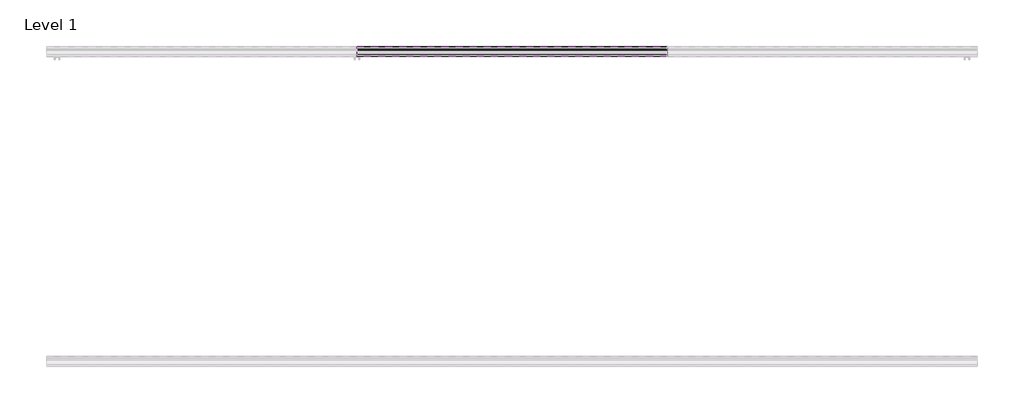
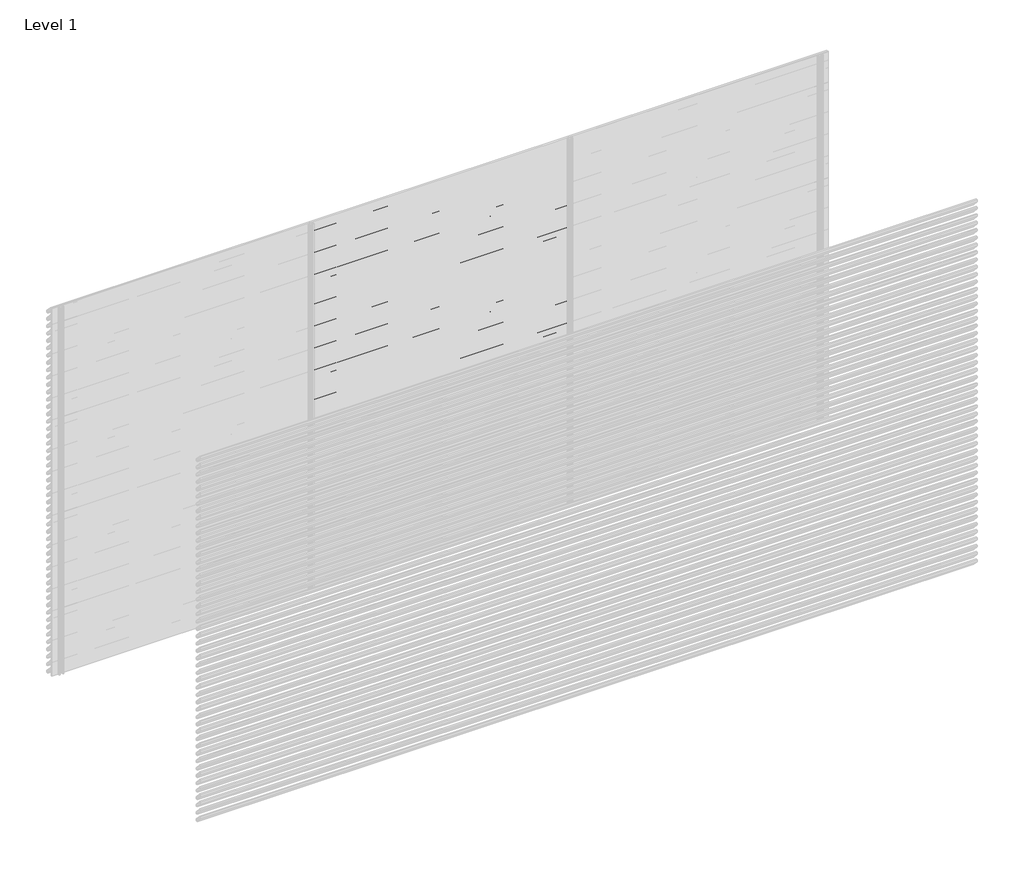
# One storey, part 140 of 153: 33 proxies.
"""IFC4 building model written with IfcOpenShell, lengths in millimetres."""

from ifc_helpers import new_model, si_unit, point, frame, frame_2d, origin, place, context, project, spatial, polyline, circle_curve, trimmed, segment, composite_curve, outline, extrude, element, save

model = new_model("IFC4")

# Units and contexts
model_context = context("Model", 3, world=origin())
ifc_project = project(units=[si_unit("LENGTHUNIT", "METRE", prefix="MILLI")], contexts=[model_context])

# Site, building, storey
site = spatial("IfcSite", under=ifc_project)
building = spatial("IfcBuilding", under=site)
storey = spatial("IfcBuildingStorey", under=building, Name="Level 1", Elevation=0.0)

# Proxies
placement = place(None, origin())
element("IfcBuildingElementProxy", 1, Name="Wall Sweeps", at=placement, inside=storey, context=model_context, shape_type="SweptSolid", body=[
    extrude(outline(composite_curve([segment(polyline([(66485.0540136, 2940.0), (66499.874191, 2938.7034025), (66549.0540136, 2885.0102749), (66549.0540136, 2873.6108187)]), True, "CONTINUOUS"), segment(trimmed(circle_curve(frame_2d((66545.7883652, 2873.897153)), 3.2781774), [point((66549.0540136, 2873.6108187))], [point((66546.4639442, 2870.6893438))], False, "CARTESIAN"), True, "CONTINUOUS"), segment(polyline([(66546.4639442, 2870.6893438), (66534.1895723, 2871.6282758), (66485.0540136, 2925.2730773), (66485.0540136, 2940.0)]), True, "CONTINUOUS")], self_intersect=False), holes=[composite_curve([segment(polyline([(66499.1621773, 2937.2599659), (66486.5540136, 2938.3630372), (66486.5540136, 2925.856213), (66534.8952036, 2873.0786805), (66546.3312542, 2872.2038762)]), True, "CONTINUOUS"), segment(trimmed(circle_curve(frame_2d((66545.7883652, 2873.897153)), 1.7781774), [point((66546.3312542, 2872.2038762))], [point((66547.5540136, 2873.6864389))], True, "CARTESIAN"), True, "CONTINUOUS"), segment(polyline([(66547.5540136, 2873.6864389), (66547.5540136, 2884.4271392), (66499.1621773, 2937.2599659)]), True, "CONTINUOUS")], self_intersect=False)]), frame((46966.6208098, 0.0, 0.0), z_axis=(1.0, 0.0, 0.0), x_axis=(0.0, 1.0, 0.0)), (0.0, 0.0, 1.0), 1999.9999998),
])
element("IfcBuildingElementProxy", 2, Name="Wall Sweeps", at=placement, inside=storey, context=model_context, shape_type="SweptSolid", body=[
    extrude(outline(composite_curve([segment(polyline([(66485.0540136, 2880.0), (66499.874191, 2878.7034025), (66549.0540136, 2825.0102749), (66549.0540136, 2813.6108187)]), True, "CONTINUOUS"), segment(trimmed(circle_curve(frame_2d((66545.7883652, 2813.897153)), 3.2781774), [point((66549.0540136, 2813.6108187))], [point((66546.4639442, 2810.6893438))], False, "CARTESIAN"), True, "CONTINUOUS"), segment(polyline([(66546.4639442, 2810.6893438), (66534.1895723, 2811.6282758), (66485.0540136, 2865.2730773), (66485.0540136, 2880.0)]), True, "CONTINUOUS")], self_intersect=False), holes=[composite_curve([segment(polyline([(66499.1621773, 2877.2599659), (66486.5540136, 2878.3630372), (66486.5540136, 2865.856213), (66534.8952036, 2813.0786805), (66546.3312542, 2812.2038762)]), True, "CONTINUOUS"), segment(trimmed(circle_curve(frame_2d((66545.7883652, 2813.897153)), 1.7781774), [point((66546.3312542, 2812.2038762))], [point((66547.5540136, 2813.6864389))], True, "CARTESIAN"), True, "CONTINUOUS"), segment(polyline([(66547.5540136, 2813.6864389), (66547.5540136, 2824.4271392), (66499.1621773, 2877.2599659)]), True, "CONTINUOUS")], self_intersect=False)]), frame((46966.6208098, 0.0, 0.0), z_axis=(1.0, 0.0, 0.0), x_axis=(0.0, 1.0, 0.0)), (0.0, 0.0, 1.0), 1999.9999998),
])
element("IfcBuildingElementProxy", 3, Name="Wall Sweeps", at=placement, inside=storey, context=model_context, shape_type="SweptSolid", body=[
    extrude(outline(composite_curve([segment(polyline([(66485.0540136, 2820.0), (66499.874191, 2818.7034025), (66549.0540136, 2765.0102749), (66549.0540136, 2753.6108187)]), True, "CONTINUOUS"), segment(trimmed(circle_curve(frame_2d((66545.7883652, 2753.897153)), 3.2781774), [point((66549.0540136, 2753.6108187))], [point((66546.4639442, 2750.6893438))], False, "CARTESIAN"), True, "CONTINUOUS"), segment(polyline([(66546.4639442, 2750.6893438), (66534.1895723, 2751.6282758), (66485.0540136, 2805.2730773), (66485.0540136, 2820.0)]), True, "CONTINUOUS")], self_intersect=False), holes=[composite_curve([segment(polyline([(66499.1621773, 2817.2599659), (66486.5540136, 2818.3630372), (66486.5540136, 2805.856213), (66534.8952036, 2753.0786805), (66546.3312542, 2752.2038762)]), True, "CONTINUOUS"), segment(trimmed(circle_curve(frame_2d((66545.7883652, 2753.897153)), 1.7781774), [point((66546.3312542, 2752.2038762))], [point((66547.5540136, 2753.6864389))], True, "CARTESIAN"), True, "CONTINUOUS"), segment(polyline([(66547.5540136, 2753.6864389), (66547.5540136, 2764.4271392), (66499.1621773, 2817.2599659)]), True, "CONTINUOUS")], self_intersect=False)]), frame((46966.6208098, 0.0, 0.0), z_axis=(1.0, 0.0, 0.0), x_axis=(0.0, 1.0, 0.0)), (0.0, 0.0, 1.0), 1999.9999998),
])
element("IfcBuildingElementProxy", 4, Name="Wall Sweeps", at=placement, inside=storey, context=model_context, shape_type="SweptSolid", body=[
    extrude(outline(composite_curve([segment(polyline([(66485.0540136, 2760.0), (66499.874191, 2758.7034025), (66549.0540136, 2705.0102749), (66549.0540136, 2693.6108187)]), True, "CONTINUOUS"), segment(trimmed(circle_curve(frame_2d((66545.7883652, 2693.897153)), 3.2781774), [point((66549.0540136, 2693.6108187))], [point((66546.4639442, 2690.6893438))], False, "CARTESIAN"), True, "CONTINUOUS"), segment(polyline([(66546.4639442, 2690.6893438), (66534.1895723, 2691.6282758), (66485.0540136, 2745.2730773), (66485.0540136, 2760.0)]), True, "CONTINUOUS")], self_intersect=False), holes=[composite_curve([segment(polyline([(66499.1621773, 2757.2599659), (66486.5540136, 2758.3630372), (66486.5540136, 2745.856213), (66534.8952036, 2693.0786805), (66546.3312542, 2692.2038762)]), True, "CONTINUOUS"), segment(trimmed(circle_curve(frame_2d((66545.7883652, 2693.897153)), 1.7781774), [point((66546.3312542, 2692.2038762))], [point((66547.5540136, 2693.6864389))], True, "CARTESIAN"), True, "CONTINUOUS"), segment(polyline([(66547.5540136, 2693.6864389), (66547.5540136, 2704.4271392), (66499.1621773, 2757.2599659)]), True, "CONTINUOUS")], self_intersect=False)]), frame((46966.6208098, 0.0, 0.0), z_axis=(1.0, 0.0, 0.0), x_axis=(0.0, 1.0, 0.0)), (0.0, 0.0, 1.0), 1999.9999998),
])
element("IfcBuildingElementProxy", 5, Name="Wall Sweeps", at=placement, inside=storey, context=model_context, shape_type="SweptSolid", body=[
    extrude(outline(composite_curve([segment(polyline([(66485.0540136, 2700.0), (66499.874191, 2698.7034025), (66549.0540136, 2645.0102749), (66549.0540136, 2633.6108187)]), True, "CONTINUOUS"), segment(trimmed(circle_curve(frame_2d((66545.7883652, 2633.897153)), 3.2781774), [point((66549.0540136, 2633.6108187))], [point((66546.4639442, 2630.6893438))], False, "CARTESIAN"), True, "CONTINUOUS"), segment(polyline([(66546.4639442, 2630.6893438), (66534.1895723, 2631.6282758), (66485.0540136, 2685.2730773), (66485.0540136, 2700.0)]), True, "CONTINUOUS")], self_intersect=False), holes=[composite_curve([segment(polyline([(66499.1621773, 2697.2599659), (66486.5540136, 2698.3630372), (66486.5540136, 2685.856213), (66534.8952036, 2633.0786805), (66546.3312542, 2632.2038762)]), True, "CONTINUOUS"), segment(trimmed(circle_curve(frame_2d((66545.7883652, 2633.897153)), 1.7781774), [point((66546.3312542, 2632.2038762))], [point((66547.5540136, 2633.6864389))], True, "CARTESIAN"), True, "CONTINUOUS"), segment(polyline([(66547.5540136, 2633.6864389), (66547.5540136, 2644.4271392), (66499.1621773, 2697.2599659)]), True, "CONTINUOUS")], self_intersect=False)]), frame((46966.6208098, 0.0, 0.0), z_axis=(1.0, 0.0, 0.0), x_axis=(0.0, 1.0, 0.0)), (0.0, 0.0, 1.0), 1999.9999998),
])
element("IfcBuildingElementProxy", 6, Name="Wall Sweeps", at=placement, inside=storey, context=model_context, shape_type="SweptSolid", body=[
    extrude(outline(composite_curve([segment(polyline([(66485.0540136, 2640.0), (66499.874191, 2638.7034025), (66549.0540136, 2585.0102749), (66549.0540136, 2573.6108187)]), True, "CONTINUOUS"), segment(trimmed(circle_curve(frame_2d((66545.7883652, 2573.897153)), 3.2781774), [point((66549.0540136, 2573.6108187))], [point((66546.4639442, 2570.6893438))], False, "CARTESIAN"), True, "CONTINUOUS"), segment(polyline([(66546.4639442, 2570.6893438), (66534.1895723, 2571.6282758), (66485.0540136, 2625.2730773), (66485.0540136, 2640.0)]), True, "CONTINUOUS")], self_intersect=False), holes=[composite_curve([segment(polyline([(66499.1621773, 2637.2599659), (66486.5540136, 2638.3630372), (66486.5540136, 2625.856213), (66534.8952036, 2573.0786805), (66546.3312542, 2572.2038762)]), True, "CONTINUOUS"), segment(trimmed(circle_curve(frame_2d((66545.7883652, 2573.897153)), 1.7781774), [point((66546.3312542, 2572.2038762))], [point((66547.5540136, 2573.6864389))], True, "CARTESIAN"), True, "CONTINUOUS"), segment(polyline([(66547.5540136, 2573.6864389), (66547.5540136, 2584.4271392), (66499.1621773, 2637.2599659)]), True, "CONTINUOUS")], self_intersect=False)]), frame((46966.6208098, 0.0, 0.0), z_axis=(1.0, 0.0, 0.0), x_axis=(0.0, 1.0, 0.0)), (0.0, 0.0, 1.0), 1999.9999998),
])
element("IfcBuildingElementProxy", 7, Name="Wall Sweeps", at=placement, inside=storey, context=model_context, shape_type="SweptSolid", body=[
    extrude(outline(composite_curve([segment(polyline([(66485.0540136, 2580.0), (66499.874191, 2578.7034025), (66549.0540136, 2525.0102749), (66549.0540136, 2513.6108187)]), True, "CONTINUOUS"), segment(trimmed(circle_curve(frame_2d((66545.7883652, 2513.897153)), 3.2781774), [point((66549.0540136, 2513.6108187))], [point((66546.4639442, 2510.6893438))], False, "CARTESIAN"), True, "CONTINUOUS"), segment(polyline([(66546.4639442, 2510.6893438), (66534.1895723, 2511.6282758), (66485.0540136, 2565.2730773), (66485.0540136, 2580.0)]), True, "CONTINUOUS")], self_intersect=False), holes=[composite_curve([segment(polyline([(66499.1621773, 2577.2599659), (66486.5540136, 2578.3630372), (66486.5540136, 2565.856213), (66534.8952036, 2513.0786805), (66546.3312542, 2512.2038762)]), True, "CONTINUOUS"), segment(trimmed(circle_curve(frame_2d((66545.7883652, 2513.897153)), 1.7781774), [point((66546.3312542, 2512.2038762))], [point((66547.5540136, 2513.6864389))], True, "CARTESIAN"), True, "CONTINUOUS"), segment(polyline([(66547.5540136, 2513.6864389), (66547.5540136, 2524.4271392), (66499.1621773, 2577.2599659)]), True, "CONTINUOUS")], self_intersect=False)]), frame((46966.6208098, 0.0, 0.0), z_axis=(1.0, 0.0, 0.0), x_axis=(0.0, 1.0, 0.0)), (0.0, 0.0, 1.0), 1999.9999998),
])
element("IfcBuildingElementProxy", 8, Name="Wall Sweeps", at=placement, inside=storey, context=model_context, shape_type="SweptSolid", body=[
    extrude(outline(composite_curve([segment(polyline([(66485.0540136, 2520.0), (66499.874191, 2518.7034025), (66549.0540136, 2465.0102749), (66549.0540136, 2453.6108187)]), True, "CONTINUOUS"), segment(trimmed(circle_curve(frame_2d((66545.7883652, 2453.897153)), 3.2781774), [point((66549.0540136, 2453.6108187))], [point((66546.4639442, 2450.6893438))], False, "CARTESIAN"), True, "CONTINUOUS"), segment(polyline([(66546.4639442, 2450.6893438), (66534.1895723, 2451.6282758), (66485.0540136, 2505.2730773), (66485.0540136, 2520.0)]), True, "CONTINUOUS")], self_intersect=False), holes=[composite_curve([segment(polyline([(66499.1621773, 2517.2599659), (66486.5540136, 2518.3630372), (66486.5540136, 2505.856213), (66534.8952036, 2453.0786805), (66546.3312542, 2452.2038762)]), True, "CONTINUOUS"), segment(trimmed(circle_curve(frame_2d((66545.7883652, 2453.897153)), 1.7781774), [point((66546.3312542, 2452.2038762))], [point((66547.5540136, 2453.6864389))], True, "CARTESIAN"), True, "CONTINUOUS"), segment(polyline([(66547.5540136, 2453.6864389), (66547.5540136, 2464.4271392), (66499.1621773, 2517.2599659)]), True, "CONTINUOUS")], self_intersect=False)]), frame((46966.6208098, 0.0, 0.0), z_axis=(1.0, 0.0, 0.0), x_axis=(0.0, 1.0, 0.0)), (0.0, 0.0, 1.0), 1999.9999998),
])
element("IfcBuildingElementProxy", 9, Name="Wall Sweeps", at=placement, inside=storey, context=model_context, shape_type="SweptSolid", body=[
    extrude(outline(composite_curve([segment(polyline([(66485.0540136, 2460.0), (66499.874191, 2458.7034025), (66549.0540136, 2405.0102749), (66549.0540136, 2393.6108187)]), True, "CONTINUOUS"), segment(trimmed(circle_curve(frame_2d((66545.7883652, 2393.897153)), 3.2781774), [point((66549.0540136, 2393.6108187))], [point((66546.4639442, 2390.6893438))], False, "CARTESIAN"), True, "CONTINUOUS"), segment(polyline([(66546.4639442, 2390.6893438), (66534.1895723, 2391.6282758), (66485.0540136, 2445.2730773), (66485.0540136, 2460.0)]), True, "CONTINUOUS")], self_intersect=False), holes=[composite_curve([segment(polyline([(66499.1621773, 2457.2599659), (66486.5540136, 2458.3630372), (66486.5540136, 2445.856213), (66534.8952036, 2393.0786805), (66546.3312542, 2392.2038762)]), True, "CONTINUOUS"), segment(trimmed(circle_curve(frame_2d((66545.7883652, 2393.897153)), 1.7781774), [point((66546.3312542, 2392.2038762))], [point((66547.5540136, 2393.6864389))], True, "CARTESIAN"), True, "CONTINUOUS"), segment(polyline([(66547.5540136, 2393.6864389), (66547.5540136, 2404.4271392), (66499.1621773, 2457.2599659)]), True, "CONTINUOUS")], self_intersect=False)]), frame((46966.6208098, 0.0, 0.0), z_axis=(1.0, 0.0, 0.0), x_axis=(0.0, 1.0, 0.0)), (0.0, 0.0, 1.0), 1999.9999998),
])
element("IfcBuildingElementProxy", 10, Name="Wall Sweeps", at=placement, inside=storey, context=model_context, shape_type="SweptSolid", body=[
    extrude(outline(composite_curve([segment(polyline([(66485.0540136, 2400.0), (66499.874191, 2398.7034025), (66549.0540136, 2345.0102749), (66549.0540136, 2333.6108187)]), True, "CONTINUOUS"), segment(trimmed(circle_curve(frame_2d((66545.7883652, 2333.897153)), 3.2781774), [point((66549.0540136, 2333.6108187))], [point((66546.4639442, 2330.6893438))], False, "CARTESIAN"), True, "CONTINUOUS"), segment(polyline([(66546.4639442, 2330.6893438), (66534.1895723, 2331.6282758), (66485.0540136, 2385.2730773), (66485.0540136, 2400.0)]), True, "CONTINUOUS")], self_intersect=False), holes=[composite_curve([segment(polyline([(66499.1621773, 2397.2599659), (66486.5540136, 2398.3630372), (66486.5540136, 2385.856213), (66534.8952036, 2333.0786805), (66546.3312542, 2332.2038762)]), True, "CONTINUOUS"), segment(trimmed(circle_curve(frame_2d((66545.7883652, 2333.897153)), 1.7781774), [point((66546.3312542, 2332.2038762))], [point((66547.5540136, 2333.6864389))], True, "CARTESIAN"), True, "CONTINUOUS"), segment(polyline([(66547.5540136, 2333.6864389), (66547.5540136, 2344.4271392), (66499.1621773, 2397.2599659)]), True, "CONTINUOUS")], self_intersect=False)]), frame((46966.6208098, 0.0, 0.0), z_axis=(1.0, 0.0, 0.0), x_axis=(0.0, 1.0, 0.0)), (0.0, 0.0, 1.0), 1999.9999998),
])
element("IfcBuildingElementProxy", 11, Name="Wall Sweeps", at=placement, inside=storey, context=model_context, shape_type="SweptSolid", body=[
    extrude(outline(composite_curve([segment(polyline([(66485.0540136, 2340.0), (66499.874191, 2338.7034025), (66549.0540136, 2285.0102749), (66549.0540136, 2273.6108187)]), True, "CONTINUOUS"), segment(trimmed(circle_curve(frame_2d((66545.7883652, 2273.897153)), 3.2781774), [point((66549.0540136, 2273.6108187))], [point((66546.4639442, 2270.6893438))], False, "CARTESIAN"), True, "CONTINUOUS"), segment(polyline([(66546.4639442, 2270.6893438), (66534.1895723, 2271.6282758), (66485.0540136, 2325.2730773), (66485.0540136, 2340.0)]), True, "CONTINUOUS")], self_intersect=False), holes=[composite_curve([segment(polyline([(66499.1621773, 2337.2599659), (66486.5540136, 2338.3630372), (66486.5540136, 2325.856213), (66534.8952036, 2273.0786805), (66546.3312542, 2272.2038762)]), True, "CONTINUOUS"), segment(trimmed(circle_curve(frame_2d((66545.7883652, 2273.897153)), 1.7781774), [point((66546.3312542, 2272.2038762))], [point((66547.5540136, 2273.6864389))], True, "CARTESIAN"), True, "CONTINUOUS"), segment(polyline([(66547.5540136, 2273.6864389), (66547.5540136, 2284.4271392), (66499.1621773, 2337.2599659)]), True, "CONTINUOUS")], self_intersect=False)]), frame((46966.6208098, 0.0, 0.0), z_axis=(1.0, 0.0, 0.0), x_axis=(0.0, 1.0, 0.0)), (0.0, 0.0, 1.0), 1999.9999998),
])
element("IfcBuildingElementProxy", 12, Name="Wall Sweeps", at=placement, inside=storey, context=model_context, shape_type="SweptSolid", body=[
    extrude(outline(composite_curve([segment(polyline([(66485.0540136, 2280.0), (66499.874191, 2278.7034025), (66549.0540136, 2225.0102749), (66549.0540136, 2213.6108187)]), True, "CONTINUOUS"), segment(trimmed(circle_curve(frame_2d((66545.7883652, 2213.897153)), 3.2781774), [point((66549.0540136, 2213.6108187))], [point((66546.4639442, 2210.6893438))], False, "CARTESIAN"), True, "CONTINUOUS"), segment(polyline([(66546.4639442, 2210.6893438), (66534.1895723, 2211.6282758), (66485.0540136, 2265.2730773), (66485.0540136, 2280.0)]), True, "CONTINUOUS")], self_intersect=False), holes=[composite_curve([segment(polyline([(66499.1621773, 2277.2599659), (66486.5540136, 2278.3630372), (66486.5540136, 2265.856213), (66534.8952036, 2213.0786805), (66546.3312542, 2212.2038762)]), True, "CONTINUOUS"), segment(trimmed(circle_curve(frame_2d((66545.7883652, 2213.897153)), 1.7781774), [point((66546.3312542, 2212.2038762))], [point((66547.5540136, 2213.6864389))], True, "CARTESIAN"), True, "CONTINUOUS"), segment(polyline([(66547.5540136, 2213.6864389), (66547.5540136, 2224.4271392), (66499.1621773, 2277.2599659)]), True, "CONTINUOUS")], self_intersect=False)]), frame((46966.6208098, 0.0, 0.0), z_axis=(1.0, 0.0, 0.0), x_axis=(0.0, 1.0, 0.0)), (0.0, 0.0, 1.0), 1999.9999998),
])
element("IfcBuildingElementProxy", 13, Name="Wall Sweeps", at=placement, inside=storey, context=model_context, shape_type="SweptSolid", body=[
    extrude(outline(composite_curve([segment(polyline([(66485.0540136, 2220.0), (66499.874191, 2218.7034025), (66549.0540136, 2165.0102749), (66549.0540136, 2153.6108187)]), True, "CONTINUOUS"), segment(trimmed(circle_curve(frame_2d((66545.7883652, 2153.897153)), 3.2781774), [point((66549.0540136, 2153.6108187))], [point((66546.4639442, 2150.6893438))], False, "CARTESIAN"), True, "CONTINUOUS"), segment(polyline([(66546.4639442, 2150.6893438), (66534.1895723, 2151.6282758), (66485.0540136, 2205.2730773), (66485.0540136, 2220.0)]), True, "CONTINUOUS")], self_intersect=False), holes=[composite_curve([segment(polyline([(66499.1621773, 2217.2599659), (66486.5540136, 2218.3630372), (66486.5540136, 2205.856213), (66534.8952036, 2153.0786805), (66546.3312542, 2152.2038762)]), True, "CONTINUOUS"), segment(trimmed(circle_curve(frame_2d((66545.7883652, 2153.897153)), 1.7781774), [point((66546.3312542, 2152.2038762))], [point((66547.5540136, 2153.6864389))], True, "CARTESIAN"), True, "CONTINUOUS"), segment(polyline([(66547.5540136, 2153.6864389), (66547.5540136, 2164.4271392), (66499.1621773, 2217.2599659)]), True, "CONTINUOUS")], self_intersect=False)]), frame((46966.6208098, 0.0, 0.0), z_axis=(1.0, 0.0, 0.0), x_axis=(0.0, 1.0, 0.0)), (0.0, 0.0, 1.0), 1999.9999998),
])
element("IfcBuildingElementProxy", 14, Name="Wall Sweeps", at=placement, inside=storey, context=model_context, shape_type="SweptSolid", body=[
    extrude(outline(composite_curve([segment(polyline([(66485.0540136, 2160.0), (66499.874191, 2158.7034025), (66549.0540136, 2105.0102749), (66549.0540136, 2093.6108187)]), True, "CONTINUOUS"), segment(trimmed(circle_curve(frame_2d((66545.7883652, 2093.897153)), 3.2781774), [point((66549.0540136, 2093.6108187))], [point((66546.4639442, 2090.6893438))], False, "CARTESIAN"), True, "CONTINUOUS"), segment(polyline([(66546.4639442, 2090.6893438), (66534.1895723, 2091.6282758), (66485.0540136, 2145.2730773), (66485.0540136, 2160.0)]), True, "CONTINUOUS")], self_intersect=False), holes=[composite_curve([segment(polyline([(66499.1621773, 2157.2599659), (66486.5540136, 2158.3630372), (66486.5540136, 2145.856213), (66534.8952036, 2093.0786805), (66546.3312542, 2092.2038762)]), True, "CONTINUOUS"), segment(trimmed(circle_curve(frame_2d((66545.7883652, 2093.897153)), 1.7781774), [point((66546.3312542, 2092.2038762))], [point((66547.5540136, 2093.6864389))], True, "CARTESIAN"), True, "CONTINUOUS"), segment(polyline([(66547.5540136, 2093.6864389), (66547.5540136, 2104.4271392), (66499.1621773, 2157.2599659)]), True, "CONTINUOUS")], self_intersect=False)]), frame((46966.6208098, 0.0, 0.0), z_axis=(1.0, 0.0, 0.0), x_axis=(0.0, 1.0, 0.0)), (0.0, 0.0, 1.0), 1999.9999998),
])
element("IfcBuildingElementProxy", 15, Name="Wall Sweeps", at=placement, inside=storey, context=model_context, shape_type="SweptSolid", body=[
    extrude(outline(composite_curve([segment(polyline([(66485.0540136, 2100.0), (66499.874191, 2098.7034025), (66549.0540136, 2045.0102749), (66549.0540136, 2033.6108187)]), True, "CONTINUOUS"), segment(trimmed(circle_curve(frame_2d((66545.7883652, 2033.897153)), 3.2781774), [point((66549.0540136, 2033.6108187))], [point((66546.4639442, 2030.6893438))], False, "CARTESIAN"), True, "CONTINUOUS"), segment(polyline([(66546.4639442, 2030.6893438), (66534.1895723, 2031.6282758), (66485.0540136, 2085.2730773), (66485.0540136, 2100.0)]), True, "CONTINUOUS")], self_intersect=False), holes=[composite_curve([segment(polyline([(66499.1621773, 2097.2599659), (66486.5540136, 2098.3630372), (66486.5540136, 2085.856213), (66534.8952036, 2033.0786805), (66546.3312542, 2032.2038762)]), True, "CONTINUOUS"), segment(trimmed(circle_curve(frame_2d((66545.7883652, 2033.897153)), 1.7781774), [point((66546.3312542, 2032.2038762))], [point((66547.5540136, 2033.6864389))], True, "CARTESIAN"), True, "CONTINUOUS"), segment(polyline([(66547.5540136, 2033.6864389), (66547.5540136, 2044.4271392), (66499.1621773, 2097.2599659)]), True, "CONTINUOUS")], self_intersect=False)]), frame((46966.6208098, 0.0, 0.0), z_axis=(1.0, 0.0, 0.0), x_axis=(0.0, 1.0, 0.0)), (0.0, 0.0, 1.0), 1999.9999998),
])
element("IfcBuildingElementProxy", 16, Name="Wall Sweeps", at=placement, inside=storey, context=model_context, shape_type="SweptSolid", body=[
    extrude(outline(composite_curve([segment(polyline([(66485.0540136, 2040.0), (66499.874191, 2038.7034025), (66549.0540136, 1985.0102749), (66549.0540136, 1973.6108187)]), True, "CONTINUOUS"), segment(trimmed(circle_curve(frame_2d((66545.7883652, 1973.897153)), 3.2781774), [point((66549.0540136, 1973.6108187))], [point((66546.4639442, 1970.6893438))], False, "CARTESIAN"), True, "CONTINUOUS"), segment(polyline([(66546.4639442, 1970.6893438), (66534.1895723, 1971.6282758), (66485.0540136, 2025.2730773), (66485.0540136, 2040.0)]), True, "CONTINUOUS")], self_intersect=False), holes=[composite_curve([segment(polyline([(66499.1621773, 2037.2599659), (66486.5540136, 2038.3630372), (66486.5540136, 2025.856213), (66534.8952036, 1973.0786805), (66546.3312542, 1972.2038762)]), True, "CONTINUOUS"), segment(trimmed(circle_curve(frame_2d((66545.7883652, 1973.897153)), 1.7781774), [point((66546.3312542, 1972.2038762))], [point((66547.5540136, 1973.6864389))], True, "CARTESIAN"), True, "CONTINUOUS"), segment(polyline([(66547.5540136, 1973.6864389), (66547.5540136, 1984.4271392), (66499.1621773, 2037.2599659)]), True, "CONTINUOUS")], self_intersect=False)]), frame((46966.6208098, 0.0, 0.0), z_axis=(1.0, 0.0, 0.0), x_axis=(0.0, 1.0, 0.0)), (0.0, 0.0, 1.0), 1999.9999998),
])
element("IfcBuildingElementProxy", 17, Name="Wall Sweeps", at=placement, inside=storey, context=model_context, shape_type="SweptSolid", body=[
    extrude(outline(composite_curve([segment(polyline([(66485.0540136, 1980.0), (66499.874191, 1978.7034025), (66549.0540136, 1925.0102749), (66549.0540136, 1913.6108187)]), True, "CONTINUOUS"), segment(trimmed(circle_curve(frame_2d((66545.7883652, 1913.897153)), 3.2781774), [point((66549.0540136, 1913.6108187))], [point((66546.4639442, 1910.6893438))], False, "CARTESIAN"), True, "CONTINUOUS"), segment(polyline([(66546.4639442, 1910.6893438), (66534.1895723, 1911.6282758), (66485.0540136, 1965.2730773), (66485.0540136, 1980.0)]), True, "CONTINUOUS")], self_intersect=False), holes=[composite_curve([segment(polyline([(66499.1621773, 1977.2599659), (66486.5540136, 1978.3630372), (66486.5540136, 1965.856213), (66534.8952036, 1913.0786805), (66546.3312542, 1912.2038762)]), True, "CONTINUOUS"), segment(trimmed(circle_curve(frame_2d((66545.7883652, 1913.897153)), 1.7781774), [point((66546.3312542, 1912.2038762))], [point((66547.5540136, 1913.6864389))], True, "CARTESIAN"), True, "CONTINUOUS"), segment(polyline([(66547.5540136, 1913.6864389), (66547.5540136, 1924.4271392), (66499.1621773, 1977.2599659)]), True, "CONTINUOUS")], self_intersect=False)]), frame((46966.6208098, 0.0, 0.0), z_axis=(1.0, 0.0, 0.0), x_axis=(0.0, 1.0, 0.0)), (0.0, 0.0, 1.0), 1999.9999998),
])
element("IfcBuildingElementProxy", 18, Name="Wall Sweeps", at=placement, inside=storey, context=model_context, shape_type="SweptSolid", body=[
    extrude(outline(composite_curve([segment(polyline([(66485.0540136, 1920.0), (66499.874191, 1918.7034025), (66549.0540136, 1865.0102749), (66549.0540136, 1853.6108187)]), True, "CONTINUOUS"), segment(trimmed(circle_curve(frame_2d((66545.7883652, 1853.897153)), 3.2781774), [point((66549.0540136, 1853.6108187))], [point((66546.4639442, 1850.6893438))], False, "CARTESIAN"), True, "CONTINUOUS"), segment(polyline([(66546.4639442, 1850.6893438), (66534.1895723, 1851.6282758), (66485.0540136, 1905.2730773), (66485.0540136, 1920.0)]), True, "CONTINUOUS")], self_intersect=False), holes=[composite_curve([segment(polyline([(66499.1621773, 1917.2599659), (66486.5540136, 1918.3630372), (66486.5540136, 1905.856213), (66534.8952036, 1853.0786805), (66546.3312542, 1852.2038762)]), True, "CONTINUOUS"), segment(trimmed(circle_curve(frame_2d((66545.7883652, 1853.897153)), 1.7781774), [point((66546.3312542, 1852.2038762))], [point((66547.5540136, 1853.6864389))], True, "CARTESIAN"), True, "CONTINUOUS"), segment(polyline([(66547.5540136, 1853.6864389), (66547.5540136, 1864.4271392), (66499.1621773, 1917.2599659)]), True, "CONTINUOUS")], self_intersect=False)]), frame((46966.6208098, 0.0, 0.0), z_axis=(1.0, 0.0, 0.0), x_axis=(0.0, 1.0, 0.0)), (0.0, 0.0, 1.0), 1999.9999998),
])
element("IfcBuildingElementProxy", 19, Name="Wall Sweeps", at=placement, inside=storey, context=model_context, shape_type="SweptSolid", body=[
    extrude(outline(composite_curve([segment(polyline([(66485.0540136, 1860.0), (66499.874191, 1858.7034025), (66549.0540136, 1805.0102749), (66549.0540136, 1793.6108187)]), True, "CONTINUOUS"), segment(trimmed(circle_curve(frame_2d((66545.7883652, 1793.897153)), 3.2781774), [point((66549.0540136, 1793.6108187))], [point((66546.4639442, 1790.6893438))], False, "CARTESIAN"), True, "CONTINUOUS"), segment(polyline([(66546.4639442, 1790.6893438), (66534.1895723, 1791.6282758), (66485.0540136, 1845.2730773), (66485.0540136, 1860.0)]), True, "CONTINUOUS")], self_intersect=False), holes=[composite_curve([segment(polyline([(66499.1621773, 1857.2599659), (66486.5540136, 1858.3630372), (66486.5540136, 1845.856213), (66534.8952036, 1793.0786805), (66546.3312542, 1792.2038762)]), True, "CONTINUOUS"), segment(trimmed(circle_curve(frame_2d((66545.7883652, 1793.897153)), 1.7781774), [point((66546.3312542, 1792.2038762))], [point((66547.5540136, 1793.6864389))], True, "CARTESIAN"), True, "CONTINUOUS"), segment(polyline([(66547.5540136, 1793.6864389), (66547.5540136, 1804.4271392), (66499.1621773, 1857.2599659)]), True, "CONTINUOUS")], self_intersect=False)]), frame((46966.6208098, 0.0, 0.0), z_axis=(1.0, 0.0, 0.0), x_axis=(0.0, 1.0, 0.0)), (0.0, 0.0, 1.0), 1999.9999998),
])
element("IfcBuildingElementProxy", 20, Name="Wall Sweeps", at=placement, inside=storey, context=model_context, shape_type="SweptSolid", body=[
    extrude(outline(composite_curve([segment(polyline([(66485.0540136, 1800.0), (66499.874191, 1798.7034025), (66549.0540136, 1745.0102749), (66549.0540136, 1733.6108187)]), True, "CONTINUOUS"), segment(trimmed(circle_curve(frame_2d((66545.7883652, 1733.897153)), 3.2781774), [point((66549.0540136, 1733.6108187))], [point((66546.4639442, 1730.6893438))], False, "CARTESIAN"), True, "CONTINUOUS"), segment(polyline([(66546.4639442, 1730.6893438), (66534.1895723, 1731.6282758), (66485.0540136, 1785.2730773), (66485.0540136, 1800.0)]), True, "CONTINUOUS")], self_intersect=False), holes=[composite_curve([segment(polyline([(66499.1621773, 1797.2599659), (66486.5540136, 1798.3630372), (66486.5540136, 1785.856213), (66534.8952036, 1733.0786805), (66546.3312542, 1732.2038762)]), True, "CONTINUOUS"), segment(trimmed(circle_curve(frame_2d((66545.7883652, 1733.897153)), 1.7781774), [point((66546.3312542, 1732.2038762))], [point((66547.5540136, 1733.6864389))], True, "CARTESIAN"), True, "CONTINUOUS"), segment(polyline([(66547.5540136, 1733.6864389), (66547.5540136, 1744.4271392), (66499.1621773, 1797.2599659)]), True, "CONTINUOUS")], self_intersect=False)]), frame((46966.6208098, 0.0, 0.0), z_axis=(1.0, 0.0, 0.0), x_axis=(0.0, 1.0, 0.0)), (0.0, 0.0, 1.0), 1999.9999998),
])
element("IfcBuildingElementProxy", 21, Name="Wall Sweeps", at=placement, inside=storey, context=model_context, shape_type="SweptSolid", body=[
    extrude(outline(composite_curve([segment(polyline([(66485.0540136, 1740.0), (66499.874191, 1738.7034025), (66549.0540136, 1685.0102749), (66549.0540136, 1673.6108187)]), True, "CONTINUOUS"), segment(trimmed(circle_curve(frame_2d((66545.7883652, 1673.897153)), 3.2781774), [point((66549.0540136, 1673.6108187))], [point((66546.4639442, 1670.6893438))], False, "CARTESIAN"), True, "CONTINUOUS"), segment(polyline([(66546.4639442, 1670.6893438), (66534.1895723, 1671.6282758), (66485.0540136, 1725.2730773), (66485.0540136, 1740.0)]), True, "CONTINUOUS")], self_intersect=False), holes=[composite_curve([segment(polyline([(66499.1621773, 1737.2599659), (66486.5540136, 1738.3630372), (66486.5540136, 1725.856213), (66534.8952036, 1673.0786805), (66546.3312542, 1672.2038762)]), True, "CONTINUOUS"), segment(trimmed(circle_curve(frame_2d((66545.7883652, 1673.897153)), 1.7781774), [point((66546.3312542, 1672.2038762))], [point((66547.5540136, 1673.6864389))], True, "CARTESIAN"), True, "CONTINUOUS"), segment(polyline([(66547.5540136, 1673.6864389), (66547.5540136, 1684.4271392), (66499.1621773, 1737.2599659)]), True, "CONTINUOUS")], self_intersect=False)]), frame((46966.6208098, 0.0, 0.0), z_axis=(1.0, 0.0, 0.0), x_axis=(0.0, 1.0, 0.0)), (0.0, 0.0, 1.0), 1999.9999998),
])
element("IfcBuildingElementProxy", 22, Name="Wall Sweeps", at=placement, inside=storey, context=model_context, shape_type="SweptSolid", body=[
    extrude(outline(composite_curve([segment(polyline([(66485.0540136, 1680.0), (66499.874191, 1678.7034025), (66549.0540136, 1625.0102749), (66549.0540136, 1613.6108187)]), True, "CONTINUOUS"), segment(trimmed(circle_curve(frame_2d((66545.7883652, 1613.897153)), 3.2781774), [point((66549.0540136, 1613.6108187))], [point((66546.4639442, 1610.6893438))], False, "CARTESIAN"), True, "CONTINUOUS"), segment(polyline([(66546.4639442, 1610.6893438), (66534.1895723, 1611.6282758), (66485.0540136, 1665.2730773), (66485.0540136, 1680.0)]), True, "CONTINUOUS")], self_intersect=False), holes=[composite_curve([segment(polyline([(66499.1621773, 1677.2599659), (66486.5540136, 1678.3630372), (66486.5540136, 1665.856213), (66534.8952036, 1613.0786805), (66546.3312542, 1612.2038762)]), True, "CONTINUOUS"), segment(trimmed(circle_curve(frame_2d((66545.7883652, 1613.897153)), 1.7781774), [point((66546.3312542, 1612.2038762))], [point((66547.5540136, 1613.6864389))], True, "CARTESIAN"), True, "CONTINUOUS"), segment(polyline([(66547.5540136, 1613.6864389), (66547.5540136, 1624.4271392), (66499.1621773, 1677.2599659)]), True, "CONTINUOUS")], self_intersect=False)]), frame((46966.6208098, 0.0, 0.0), z_axis=(1.0, 0.0, 0.0), x_axis=(0.0, 1.0, 0.0)), (0.0, 0.0, 1.0), 1999.9999998),
])
element("IfcBuildingElementProxy", 23, Name="Wall Sweeps", at=placement, inside=storey, context=model_context, shape_type="SweptSolid", body=[
    extrude(outline(composite_curve([segment(polyline([(66485.0540136, 1620.0), (66499.874191, 1618.7034025), (66549.0540136, 1565.0102749), (66549.0540136, 1553.6108187)]), True, "CONTINUOUS"), segment(trimmed(circle_curve(frame_2d((66545.7883652, 1553.897153)), 3.2781774), [point((66549.0540136, 1553.6108187))], [point((66546.4639442, 1550.6893438))], False, "CARTESIAN"), True, "CONTINUOUS"), segment(polyline([(66546.4639442, 1550.6893438), (66534.1895723, 1551.6282758), (66485.0540136, 1605.2730773), (66485.0540136, 1620.0)]), True, "CONTINUOUS")], self_intersect=False), holes=[composite_curve([segment(polyline([(66499.1621773, 1617.2599659), (66486.5540136, 1618.3630372), (66486.5540136, 1605.856213), (66534.8952036, 1553.0786805), (66546.3312542, 1552.2038762)]), True, "CONTINUOUS"), segment(trimmed(circle_curve(frame_2d((66545.7883652, 1553.897153)), 1.7781774), [point((66546.3312542, 1552.2038762))], [point((66547.5540136, 1553.6864389))], True, "CARTESIAN"), True, "CONTINUOUS"), segment(polyline([(66547.5540136, 1553.6864389), (66547.5540136, 1564.4271392), (66499.1621773, 1617.2599659)]), True, "CONTINUOUS")], self_intersect=False)]), frame((46966.6208098, 0.0, 0.0), z_axis=(1.0, 0.0, 0.0), x_axis=(0.0, 1.0, 0.0)), (0.0, 0.0, 1.0), 1999.9999998),
])
element("IfcBuildingElementProxy", 24, Name="Wall Sweeps", at=placement, inside=storey, context=model_context, shape_type="SweptSolid", body=[
    extrude(outline(composite_curve([segment(polyline([(66485.0540136, 1560.0), (66499.874191, 1558.7034025), (66549.0540136, 1505.0102749), (66549.0540136, 1493.6108187)]), True, "CONTINUOUS"), segment(trimmed(circle_curve(frame_2d((66545.7883652, 1493.897153)), 3.2781774), [point((66549.0540136, 1493.6108187))], [point((66546.4639442, 1490.6893438))], False, "CARTESIAN"), True, "CONTINUOUS"), segment(polyline([(66546.4639442, 1490.6893438), (66534.1895723, 1491.6282758), (66485.0540136, 1545.2730773), (66485.0540136, 1560.0)]), True, "CONTINUOUS")], self_intersect=False), holes=[composite_curve([segment(polyline([(66499.1621773, 1557.2599659), (66486.5540136, 1558.3630372), (66486.5540136, 1545.856213), (66534.8952036, 1493.0786805), (66546.3312542, 1492.2038762)]), True, "CONTINUOUS"), segment(trimmed(circle_curve(frame_2d((66545.7883652, 1493.897153)), 1.7781774), [point((66546.3312542, 1492.2038762))], [point((66547.5540136, 1493.6864389))], True, "CARTESIAN"), True, "CONTINUOUS"), segment(polyline([(66547.5540136, 1493.6864389), (66547.5540136, 1504.4271392), (66499.1621773, 1557.2599659)]), True, "CONTINUOUS")], self_intersect=False)]), frame((46966.6208098, 0.0, 0.0), z_axis=(1.0, 0.0, 0.0), x_axis=(0.0, 1.0, 0.0)), (0.0, 0.0, 1.0), 1999.9999998),
])
element("IfcBuildingElementProxy", 25, Name="Wall Sweeps", at=placement, inside=storey, context=model_context, shape_type="SweptSolid", body=[
    extrude(outline(composite_curve([segment(polyline([(66485.0540136, 1500.0), (66499.874191, 1498.7034025), (66549.0540136, 1445.0102749), (66549.0540136, 1433.6108187)]), True, "CONTINUOUS"), segment(trimmed(circle_curve(frame_2d((66545.7883652, 1433.897153)), 3.2781774), [point((66549.0540136, 1433.6108187))], [point((66546.4639442, 1430.6893438))], False, "CARTESIAN"), True, "CONTINUOUS"), segment(polyline([(66546.4639442, 1430.6893438), (66534.1895723, 1431.6282758), (66485.0540136, 1485.2730773), (66485.0540136, 1500.0)]), True, "CONTINUOUS")], self_intersect=False), holes=[composite_curve([segment(polyline([(66499.1621773, 1497.2599659), (66486.5540136, 1498.3630372), (66486.5540136, 1485.856213), (66534.8952036, 1433.0786805), (66546.3312542, 1432.2038762)]), True, "CONTINUOUS"), segment(trimmed(circle_curve(frame_2d((66545.7883652, 1433.897153)), 1.7781774), [point((66546.3312542, 1432.2038762))], [point((66547.5540136, 1433.6864389))], True, "CARTESIAN"), True, "CONTINUOUS"), segment(polyline([(66547.5540136, 1433.6864389), (66547.5540136, 1444.4271392), (66499.1621773, 1497.2599659)]), True, "CONTINUOUS")], self_intersect=False)]), frame((46966.6208098, 0.0, 0.0), z_axis=(1.0, 0.0, 0.0), x_axis=(0.0, 1.0, 0.0)), (0.0, 0.0, 1.0), 1999.9999998),
])
element("IfcBuildingElementProxy", 26, Name="Wall Sweeps", at=placement, inside=storey, context=model_context, shape_type="SweptSolid", body=[
    extrude(outline(composite_curve([segment(polyline([(66485.0540136, 1440.0), (66499.874191, 1438.7034025), (66549.0540136, 1385.0102749), (66549.0540136, 1373.6108187)]), True, "CONTINUOUS"), segment(trimmed(circle_curve(frame_2d((66545.7883652, 1373.897153)), 3.2781774), [point((66549.0540136, 1373.6108187))], [point((66546.4639442, 1370.6893438))], False, "CARTESIAN"), True, "CONTINUOUS"), segment(polyline([(66546.4639442, 1370.6893438), (66534.1895723, 1371.6282758), (66485.0540136, 1425.2730773), (66485.0540136, 1440.0)]), True, "CONTINUOUS")], self_intersect=False), holes=[composite_curve([segment(polyline([(66499.1621773, 1437.2599659), (66486.5540136, 1438.3630372), (66486.5540136, 1425.856213), (66534.8952036, 1373.0786805), (66546.3312542, 1372.2038762)]), True, "CONTINUOUS"), segment(trimmed(circle_curve(frame_2d((66545.7883652, 1373.897153)), 1.7781774), [point((66546.3312542, 1372.2038762))], [point((66547.5540136, 1373.6864389))], True, "CARTESIAN"), True, "CONTINUOUS"), segment(polyline([(66547.5540136, 1373.6864389), (66547.5540136, 1384.4271392), (66499.1621773, 1437.2599659)]), True, "CONTINUOUS")], self_intersect=False)]), frame((46966.6208098, 0.0, 0.0), z_axis=(1.0, 0.0, 0.0), x_axis=(0.0, 1.0, 0.0)), (0.0, 0.0, 1.0), 1999.9999998),
])
element("IfcBuildingElementProxy", 27, Name="Wall Sweeps", at=placement, inside=storey, context=model_context, shape_type="SweptSolid", body=[
    extrude(outline(composite_curve([segment(polyline([(66485.0540136, 1380.0), (66499.874191, 1378.7034025), (66549.0540136, 1325.0102749), (66549.0540136, 1313.6108187)]), True, "CONTINUOUS"), segment(trimmed(circle_curve(frame_2d((66545.7883652, 1313.897153)), 3.2781774), [point((66549.0540136, 1313.6108187))], [point((66546.4639442, 1310.6893438))], False, "CARTESIAN"), True, "CONTINUOUS"), segment(polyline([(66546.4639442, 1310.6893438), (66534.1895723, 1311.6282758), (66485.0540136, 1365.2730773), (66485.0540136, 1380.0)]), True, "CONTINUOUS")], self_intersect=False), holes=[composite_curve([segment(polyline([(66499.1621773, 1377.2599659), (66486.5540136, 1378.3630372), (66486.5540136, 1365.856213), (66534.8952036, 1313.0786805), (66546.3312542, 1312.2038762)]), True, "CONTINUOUS"), segment(trimmed(circle_curve(frame_2d((66545.7883652, 1313.897153)), 1.7781774), [point((66546.3312542, 1312.2038762))], [point((66547.5540136, 1313.6864389))], True, "CARTESIAN"), True, "CONTINUOUS"), segment(polyline([(66547.5540136, 1313.6864389), (66547.5540136, 1324.4271392), (66499.1621773, 1377.2599659)]), True, "CONTINUOUS")], self_intersect=False)]), frame((46966.6208098, 0.0, 0.0), z_axis=(1.0, 0.0, 0.0), x_axis=(0.0, 1.0, 0.0)), (0.0, 0.0, 1.0), 1999.9999998),
])
element("IfcBuildingElementProxy", 28, Name="Wall Sweeps", at=placement, inside=storey, context=model_context, shape_type="SweptSolid", body=[
    extrude(outline(composite_curve([segment(polyline([(66485.0540136, 1320.0), (66499.874191, 1318.7034025), (66549.0540136, 1265.0102749), (66549.0540136, 1253.6108187)]), True, "CONTINUOUS"), segment(trimmed(circle_curve(frame_2d((66545.7883652, 1253.897153)), 3.2781774), [point((66549.0540136, 1253.6108187))], [point((66546.4639442, 1250.6893438))], False, "CARTESIAN"), True, "CONTINUOUS"), segment(polyline([(66546.4639442, 1250.6893438), (66534.1895723, 1251.6282758), (66485.0540136, 1305.2730773), (66485.0540136, 1320.0)]), True, "CONTINUOUS")], self_intersect=False), holes=[composite_curve([segment(polyline([(66499.1621773, 1317.2599659), (66486.5540136, 1318.3630372), (66486.5540136, 1305.856213), (66534.8952036, 1253.0786805), (66546.3312542, 1252.2038762)]), True, "CONTINUOUS"), segment(trimmed(circle_curve(frame_2d((66545.7883652, 1253.897153)), 1.7781774), [point((66546.3312542, 1252.2038762))], [point((66547.5540136, 1253.6864389))], True, "CARTESIAN"), True, "CONTINUOUS"), segment(polyline([(66547.5540136, 1253.6864389), (66547.5540136, 1264.4271392), (66499.1621773, 1317.2599659)]), True, "CONTINUOUS")], self_intersect=False)]), frame((46966.6208098, 0.0, 0.0), z_axis=(1.0, 0.0, 0.0), x_axis=(0.0, 1.0, 0.0)), (0.0, 0.0, 1.0), 1999.9999998),
])
element("IfcBuildingElementProxy", 29, Name="Wall Sweeps", at=placement, inside=storey, context=model_context, shape_type="SweptSolid", body=[
    extrude(outline(composite_curve([segment(polyline([(66485.0540136, 1260.0), (66499.874191, 1258.7034025), (66549.0540136, 1205.0102749), (66549.0540136, 1193.6108187)]), True, "CONTINUOUS"), segment(trimmed(circle_curve(frame_2d((66545.7883652, 1193.897153)), 3.2781774), [point((66549.0540136, 1193.6108187))], [point((66546.4639442, 1190.6893438))], False, "CARTESIAN"), True, "CONTINUOUS"), segment(polyline([(66546.4639442, 1190.6893438), (66534.1895723, 1191.6282758), (66485.0540136, 1245.2730773), (66485.0540136, 1260.0)]), True, "CONTINUOUS")], self_intersect=False), holes=[composite_curve([segment(polyline([(66499.1621773, 1257.2599659), (66486.5540136, 1258.3630372), (66486.5540136, 1245.856213), (66534.8952036, 1193.0786805), (66546.3312542, 1192.2038762)]), True, "CONTINUOUS"), segment(trimmed(circle_curve(frame_2d((66545.7883652, 1193.897153)), 1.7781774), [point((66546.3312542, 1192.2038762))], [point((66547.5540136, 1193.6864389))], True, "CARTESIAN"), True, "CONTINUOUS"), segment(polyline([(66547.5540136, 1193.6864389), (66547.5540136, 1204.4271392), (66499.1621773, 1257.2599659)]), True, "CONTINUOUS")], self_intersect=False)]), frame((46966.6208098, 0.0, 0.0), z_axis=(1.0, 0.0, 0.0), x_axis=(0.0, 1.0, 0.0)), (0.0, 0.0, 1.0), 1999.9999998),
])
element("IfcBuildingElementProxy", 30, Name="Wall Sweeps", at=placement, inside=storey, context=model_context, shape_type="SweptSolid", body=[
    extrude(outline(composite_curve([segment(polyline([(66485.0540136, 1200.0), (66499.874191, 1198.7034025), (66549.0540136, 1145.0102749), (66549.0540136, 1133.6108187)]), True, "CONTINUOUS"), segment(trimmed(circle_curve(frame_2d((66545.7883652, 1133.897153)), 3.2781774), [point((66549.0540136, 1133.6108187))], [point((66546.4639442, 1130.6893438))], False, "CARTESIAN"), True, "CONTINUOUS"), segment(polyline([(66546.4639442, 1130.6893438), (66534.1895723, 1131.6282758), (66485.0540136, 1185.2730773), (66485.0540136, 1200.0)]), True, "CONTINUOUS")], self_intersect=False), holes=[composite_curve([segment(polyline([(66499.1621773, 1197.2599659), (66486.5540136, 1198.3630372), (66486.5540136, 1185.856213), (66534.8952036, 1133.0786805), (66546.3312542, 1132.2038762)]), True, "CONTINUOUS"), segment(trimmed(circle_curve(frame_2d((66545.7883652, 1133.897153)), 1.7781774), [point((66546.3312542, 1132.2038762))], [point((66547.5540136, 1133.6864389))], True, "CARTESIAN"), True, "CONTINUOUS"), segment(polyline([(66547.5540136, 1133.6864389), (66547.5540136, 1144.4271392), (66499.1621773, 1197.2599659)]), True, "CONTINUOUS")], self_intersect=False)]), frame((46966.6208098, 0.0, 0.0), z_axis=(1.0, 0.0, 0.0), x_axis=(0.0, 1.0, 0.0)), (0.0, 0.0, 1.0), 1999.9999998),
])
element("IfcBuildingElementProxy", 31, Name="Wall Sweeps", at=placement, inside=storey, context=model_context, shape_type="SweptSolid", body=[
    extrude(outline(composite_curve([segment(polyline([(66485.0540136, 1140.0), (66499.874191, 1138.7034025), (66549.0540136, 1085.0102749), (66549.0540136, 1073.6108187)]), True, "CONTINUOUS"), segment(trimmed(circle_curve(frame_2d((66545.7883652, 1073.897153)), 3.2781774), [point((66549.0540136, 1073.6108187))], [point((66546.4639442, 1070.6893438))], False, "CARTESIAN"), True, "CONTINUOUS"), segment(polyline([(66546.4639442, 1070.6893438), (66534.1895723, 1071.6282758), (66485.0540136, 1125.2730773), (66485.0540136, 1140.0)]), True, "CONTINUOUS")], self_intersect=False), holes=[composite_curve([segment(polyline([(66499.1621773, 1137.2599659), (66486.5540136, 1138.3630372), (66486.5540136, 1125.856213), (66534.8952036, 1073.0786805), (66546.3312542, 1072.2038762)]), True, "CONTINUOUS"), segment(trimmed(circle_curve(frame_2d((66545.7883652, 1073.897153)), 1.7781774), [point((66546.3312542, 1072.2038762))], [point((66547.5540136, 1073.6864389))], True, "CARTESIAN"), True, "CONTINUOUS"), segment(polyline([(66547.5540136, 1073.6864389), (66547.5540136, 1084.4271392), (66499.1621773, 1137.2599659)]), True, "CONTINUOUS")], self_intersect=False)]), frame((46966.6208098, 0.0, 0.0), z_axis=(1.0, 0.0, 0.0), x_axis=(0.0, 1.0, 0.0)), (0.0, 0.0, 1.0), 1999.9999998),
])
element("IfcBuildingElementProxy", 32, Name="Wall Sweeps", at=placement, inside=storey, context=model_context, shape_type="SweptSolid", body=[
    extrude(outline(composite_curve([segment(polyline([(66485.0540136, 1080.0), (66499.874191, 1078.7034025), (66549.0540136, 1025.0102749), (66549.0540136, 1013.6108187)]), True, "CONTINUOUS"), segment(trimmed(circle_curve(frame_2d((66545.7883652, 1013.897153)), 3.2781774), [point((66549.0540136, 1013.6108187))], [point((66546.4639442, 1010.6893438))], False, "CARTESIAN"), True, "CONTINUOUS"), segment(polyline([(66546.4639442, 1010.6893438), (66534.1895723, 1011.6282758), (66485.0540136, 1065.2730773), (66485.0540136, 1080.0)]), True, "CONTINUOUS")], self_intersect=False), holes=[composite_curve([segment(polyline([(66499.1621773, 1077.2599659), (66486.5540136, 1078.3630372), (66486.5540136, 1065.856213), (66534.8952036, 1013.0786805), (66546.3312542, 1012.2038762)]), True, "CONTINUOUS"), segment(trimmed(circle_curve(frame_2d((66545.7883652, 1013.897153)), 1.7781774), [point((66546.3312542, 1012.2038762))], [point((66547.5540136, 1013.6864389))], True, "CARTESIAN"), True, "CONTINUOUS"), segment(polyline([(66547.5540136, 1013.6864389), (66547.5540136, 1024.4271392), (66499.1621773, 1077.2599659)]), True, "CONTINUOUS")], self_intersect=False)]), frame((46966.6208098, 0.0, 0.0), z_axis=(1.0, 0.0, 0.0), x_axis=(0.0, 1.0, 0.0)), (0.0, 0.0, 1.0), 1999.9999998),
])
element("IfcBuildingElementProxy", 33, Name="Wall Sweeps", at=placement, inside=storey, context=model_context, shape_type="SweptSolid", body=[
    extrude(outline(composite_curve([segment(polyline([(66485.0540136, 1020.0), (66499.874191, 1018.7034025), (66549.0540136, 965.0102749), (66549.0540136, 953.6108187)]), True, "CONTINUOUS"), segment(trimmed(circle_curve(frame_2d((66545.7883652, 953.897153)), 3.2781774), [point((66549.0540136, 953.6108187))], [point((66546.4639442, 950.6893438))], False, "CARTESIAN"), True, "CONTINUOUS"), segment(polyline([(66546.4639442, 950.6893438), (66534.1895723, 951.6282758), (66485.0540136, 1005.2730773), (66485.0540136, 1020.0)]), True, "CONTINUOUS")], self_intersect=False), holes=[composite_curve([segment(polyline([(66499.1621773, 1017.2599659), (66486.5540136, 1018.3630372), (66486.5540136, 1005.856213), (66534.8952036, 953.0786805), (66546.3312542, 952.2038762)]), True, "CONTINUOUS"), segment(trimmed(circle_curve(frame_2d((66545.7883652, 953.897153)), 1.7781774), [point((66546.3312542, 952.2038762))], [point((66547.5540136, 953.6864389))], True, "CARTESIAN"), True, "CONTINUOUS"), segment(polyline([(66547.5540136, 953.6864389), (66547.5540136, 964.4271392), (66499.1621773, 1017.2599659)]), True, "CONTINUOUS")], self_intersect=False)]), frame((46966.6208098, 0.0, 0.0), z_axis=(1.0, 0.0, 0.0), x_axis=(0.0, 1.0, 0.0)), (0.0, 0.0, 1.0), 1999.9999998),
])

save(model, "model.ifc")
